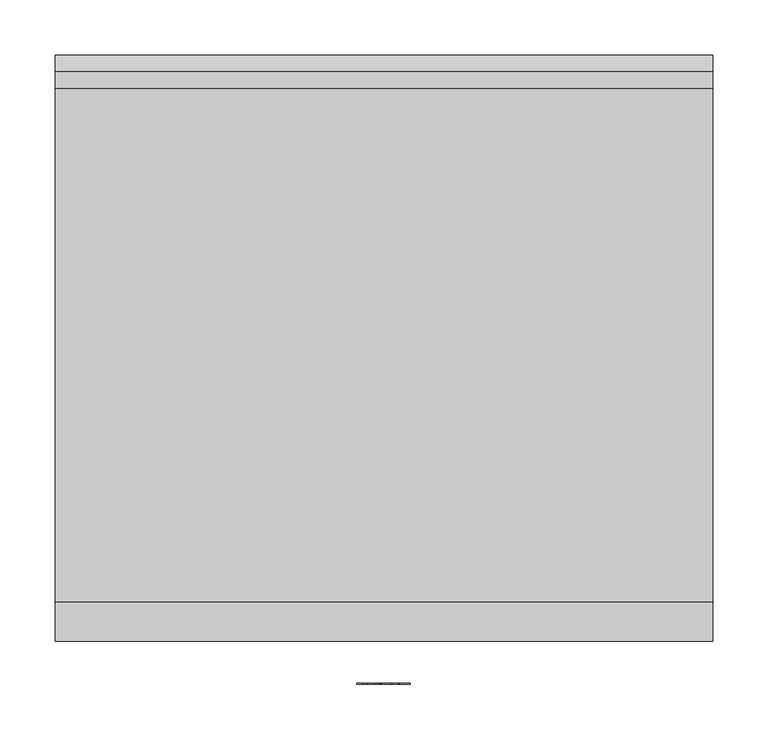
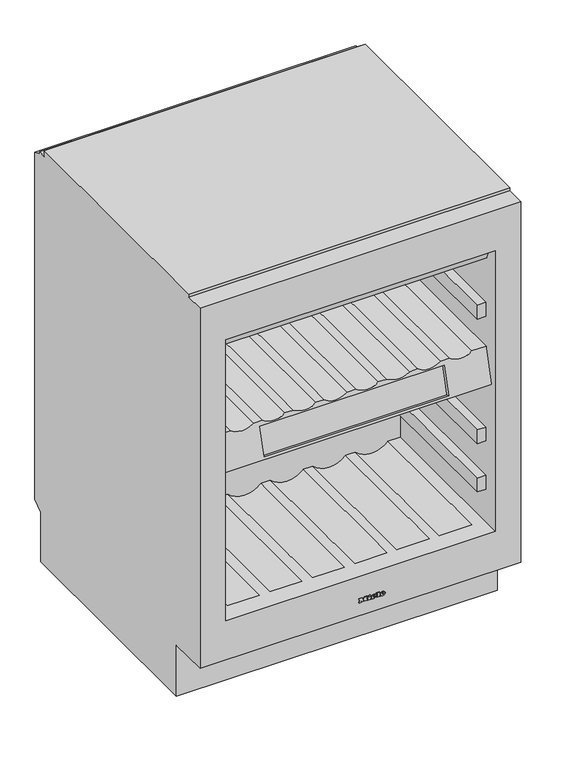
"""IFC4 building model written with IfcOpenShell, lengths in millimetres: proxy geometry, 09850180_AUS_KWT6321UG : 36632100_AUS_9850180_KWT6321UG."""

from ifc_helpers import new_model, si_unit, point, frame, frame_2d, origin, origin_with_axes, place, context, project, spatial, polyline, circle_curve, ellipse_curve, trimmed, segment, composite_curve, outline, extrude, source, transform, mapped, element, save
from ifc_brep_helpers import plane_surface, cylinder_surface, revolved_surface, extruded_surface, advanced_brep


def specialty_equipment_eea160db(model_context):
    return source(origin(), model_context, "Body", "SolidModel", [
        advanced_brep(
        [(298.5, 551.0, 2.5), (298.5, 551.0, 100.0), (298.5, 570.0, 114.0), (298.5, 570.0, 796.3), (298.5, 555.0, 802.0), (298.5, 555.0, 806.0), (298.5, 539.335479, 806.0), (298.5, 539.335479, 818.0), (298.5, 74.0, 818.0), (298.5, 74.0, 812.0), (298.5, 38.0, 812.0), (298.5, 38.0, 103.5), (298.5, 114.0, 103.5), (298.5, 114.0, 2.5), (-298.5, 551.0, 2.5), (-298.5, 114.0, 2.5), (-298.5, 114.0, 103.5), (-298.5, 38.0, 103.5), (-298.5, 38.0, 812.0), (-298.5, 74.0, 812.0), (-298.5, 74.0, 818.0), (-298.5, 539.335479, 818.0), (-298.5, 539.335479, 806.0), (-298.5, 555.0, 806.0), (-298.5, 555.0, 802.0), (-298.5, 570.0, 796.3), (-298.5, 570.0, 114.0), (-298.5, 551.0, 100.0), (251.0, 38.0, 733.0), (251.0, 38.0, 180.5), (-251.0, 38.0, 180.5), (-251.0, 38.0, 733.0), (251.0, 54.0, 733.0), (251.0, 65.0, 703.0), (251.0, 390.0, 703.0), (251.0, 390.0, 602.5), (251.0, 482.0, 602.5), (251.0, 482.0, 527.5), (251.0, 67.1557233, 527.5), (251.0, 49.8730004, 463.0), (251.0, 390.0, 463.0), (251.0, 390.0, 362.0), (251.0, 482.0, 362.0), (251.0, 482.0, 262.0), (251.0, 370.3, 262.0), (251.0, 344.0, 236.7), (251.0, 344.0, 180.5), (251.0, 345.0, 585.0), (251.0, 345.0, 612.2), (251.0, 69.0, 612.2), (251.0, 69.0, 585.0), (251.0, 345.0, 340.0), (251.0, 345.0, 367.2), (251.0, 69.0, 367.2), (251.0, 69.0, 340.0), (251.0, 345.0, 245.0), (251.0, 345.0, 272.2), (251.0, 69.0, 272.2), (251.0, 69.0, 245.0), (-251.0, 344.0, 180.5), (-251.0, 344.0, 236.7), (-251.0, 370.3, 262.0), (-251.0, 482.0, 262.0), (-251.0, 482.0, 362.0), (-251.0, 390.0, 362.0), (-251.0, 390.0, 463.0), (-251.0, 49.8730004, 463.0), (-251.0, 67.1557233, 527.5), (-251.0, 482.0, 527.5), (-251.0, 482.0, 602.5), (-251.0, 390.0, 602.5), (-251.0, 390.0, 703.0), (-251.0, 65.0, 703.0), (-251.0, 54.0, 733.0), (-251.0, 345.0, 612.2), (-251.0, 345.0, 585.0), (-251.0, 69.0, 585.0), (-251.0, 69.0, 612.2), (-251.0, 345.0, 367.2), (-251.0, 345.0, 340.0), (-251.0, 69.0, 340.0), (-251.0, 69.0, 367.2), (-251.0, 345.0, 272.2), (-251.0, 345.0, 245.0), (-251.0, 69.0, 245.0), (-251.0, 69.0, 272.2), (227.8108891, 344.0, 180.5), (227.8108891, 73.0, 180.5), (167.1891109, 73.0, 180.5), (167.1891109, 344.0, 180.5), (148.8108891, 344.0, 180.5), (148.8108891, 73.0, 180.5), (88.1891109, 73.0, 180.5), (88.1891109, 344.0, 180.5), (69.8108891, 344.0, 180.5), (69.8108891, 73.0, 180.5), (9.1891109, 73.0, 180.5), (9.1891109, 344.0, 180.5), (-9.1891109, 344.0, 180.5), (-9.1891109, 73.0, 180.5), (-69.8108891, 73.0, 180.5), (-69.8108891, 344.0, 180.5), (-88.1891109, 344.0, 180.5), (-88.1891109, 73.0, 180.5), (-148.8108891, 73.0, 180.5), (-148.8108891, 344.0, 180.5), (-167.1891109, 344.0, 180.5), (-167.1891109, 73.0, 180.5), (-227.8108891, 73.0, 180.5), (-227.8108891, 344.0, 180.5), (224.1024288, 67.1557233, 527.5), (181.8975712, 67.1557233, 527.5), (166.1024288, 67.1557233, 527.5), (123.8975712, 67.1557233, 527.5), (108.1024288, 67.1557233, 527.5), (65.8975712, 67.1557233, 527.5), (50.1024288, 67.1557233, 527.5), (7.8975712, 67.1557233, 527.5), (-7.8975712, 67.1557233, 527.5), (-50.1024288, 67.1557233, 527.5), (-65.8975712, 67.1557233, 527.5), (-108.1024288, 67.1557233, 527.5), (-123.8975712, 67.1557233, 527.5), (-166.1024288, 67.1557233, 527.5), (-181.8975712, 67.1557233, 527.5), (-224.1024288, 67.1557233, 527.5), (171.5, 64.8781552, 519.0), (171.5, 50.9795725, 467.1297831), (-171.5, 50.9795725, 467.1297831), (-171.5, 64.8781552, 519.0), (224.1024288, 482.0, 527.5), (-224.1024288, 482.0, 527.5), (181.8975712, 482.0, 527.5), (166.1024288, 482.0, 527.5), (123.8975712, 482.0, 527.5), (108.1024288, 482.0, 527.5), (65.8975712, 482.0, 527.5), (50.1024288, 482.0, 527.5), (7.8975712, 482.0, 527.5), (-7.8975712, 482.0, 527.5), (-50.1024288, 482.0, 527.5), (-65.8975712, 482.0, 527.5), (-108.1024288, 482.0, 527.5), (-123.8975712, 482.0, 527.5), (-166.1024288, 482.0, 527.5), (-181.8975712, 482.0, 527.5), (171.5, 70.6737101, 517.4470857), (171.5, 56.7751274, 465.5768689), (-171.5, 56.7751274, 465.5768689), (-171.5, 70.6737101, 517.4470857), (-235.0, 345.0, 612.2), (-235.0, 345.0, 585.0), (-235.0, 345.0, 367.2), (-235.0, 345.0, 340.0), (-235.0, 345.0, 272.2), (-235.0, 345.0, 245.0), (235.0, 345.0, 612.2), (235.0, 345.0, 585.0), (235.0, 345.0, 367.2), (235.0, 345.0, 340.0), (235.0, 345.0, 272.2), (235.0, 345.0, 245.0), (-235.0, 69.0, 612.2), (-235.0, 69.0, 585.0), (-235.0, 69.0, 367.2), (-235.0, 69.0, 340.0), (-235.0, 69.0, 272.2), (-235.0, 69.0, 245.0), (235.0, 69.0, 612.2), (235.0, 69.0, 585.0), (235.0, 69.0, 367.2), (235.0, 69.0, 340.0), (235.0, 69.0, 272.2), (235.0, 69.0, 245.0)],
        [
            (0, 1),
            (1, 2),
            (2, 3),
            (3, 4),
            (4, 5),
            (5, 6),
            (6, 7),
            (7, 8),
            (8, 9),
            (9, 10),
            (10, 11),
            (11, 12),
            (12, 13),
            (13, 0),
            (14, 15),
            (15, 16),
            (16, 17),
            (17, 18),
            (18, 19),
            (19, 20),
            (20, 21),
            (21, 22),
            (22, 23),
            (23, 24),
            (24, 25),
            (25, 26),
            (26, 27),
            (27, 14),
            (0, 14),
            (27, 1),
            (26, 2),
            (25, 3),
            (24, 4),
            (23, 5),
            (22, 6),
            (21, 7),
            (20, 8),
            (17, 11),
            (10, 18),
            (28, 29),
            (29, 30),
            (30, 31),
            (31, 28),
            (16, 12),
            (15, 13),
            (32, 33),
            (33, 34),
            (34, 35),
            (35, 36),
            (36, 37),
            (37, 38),
            (38, 39),
            (39, 40),
            (40, 41),
            (41, 42),
            (42, 43),
            (43, 44),
            (44, 45),
            (45, 46),
            (46, 29),
            (28, 32),
            (47, 48),
            (48, 49),
            (49, 50),
            (50, 47),
            (51, 52),
            (52, 53),
            (53, 54),
            (54, 51),
            (55, 56),
            (56, 57),
            (57, 58),
            (58, 55),
            (59, 60),
            (60, 61),
            (61, 62),
            (62, 63),
            (63, 64),
            (64, 65),
            (65, 66),
            (66, 67),
            (67, 68),
            (68, 69),
            (69, 70),
            (70, 71),
            (71, 72),
            (72, 73),
            (73, 31),
            (30, 59),
            (74, 75),
            (75, 76),
            (76, 77),
            (77, 74),
            (78, 79),
            (79, 80),
            (80, 81),
            (81, 78),
            (82, 83),
            (83, 84),
            (84, 85),
            (85, 82),
            (73, 32),
            (46, 86),
            (86, 87),
            (87, 88),
            (88, 89),
            (89, 90),
            (90, 91),
            (91, 92),
            (92, 93),
            (93, 94),
            (94, 95),
            (95, 96),
            (96, 97),
            (97, 98),
            (98, 99),
            (99, 100),
            (100, 101),
            (101, 102),
            (102, 103),
            (103, 104),
            (104, 105),
            (105, 106),
            (106, 107),
            (107, 108),
            (108, 109),
            (109, 59),
            (45, 60),
            (109, 106, circle_curve(frame((-197.5, 344.0, 211.0), z_axis=(0.0, -1.0, 0.0), x_axis=(1.0, 0.0, 0.0)), 43.0)),
            (105, 102, circle_curve(frame((-118.5, 344.0, 211.0), z_axis=(0.0, -1.0, 0.0), x_axis=(1.0, 0.0, 0.0)), 43.0)),
            (101, 98, circle_curve(frame((-39.5, 344.0, 211.0), z_axis=(0.0, -1.0, 0.0), x_axis=(1.0, 0.0, 0.0)), 43.0)),
            (97, 94, circle_curve(frame((39.5, 344.0, 211.0), z_axis=(0.0, -1.0, 0.0), x_axis=(1.0, 0.0, 0.0)), 43.0)),
            (93, 90, circle_curve(frame((118.5, 344.0, 211.0), z_axis=(0.0, -1.0, 0.0), x_axis=(1.0, 0.0, 0.0)), 43.0)),
            (89, 86, circle_curve(frame((197.5, 344.0, 211.0), z_axis=(0.0, -1.0, 0.0), x_axis=(1.0, 0.0, 0.0)), 43.0)),
            (44, 61),
            (43, 62),
            (42, 63),
            (41, 64),
            (40, 65),
            (39, 66),
            (38, 110),
            (110, 111, ellipse_curve(frame((203.0, 75.8640721, 560.0), z_axis=(0.0, 0.9659258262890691, -0.25881904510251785), x_axis=(0.0, -0.2588190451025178, -0.9659258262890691)), 40.116952, 38.75)),
            (111, 112),
            (112, 113, ellipse_curve(frame((145.0, 75.8640721, 560.0), z_axis=(0.0, 0.9659258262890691, -0.25881904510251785), x_axis=(0.0, -0.2588190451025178, -0.9659258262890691)), 40.116952, 38.75)),
            (113, 114),
            (114, 115, ellipse_curve(frame((87.0, 75.8640721, 560.0), z_axis=(0.0, 0.9659258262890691, -0.25881904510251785), x_axis=(0.0, -0.2588190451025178, -0.9659258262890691)), 40.116952, 38.75)),
            (115, 116),
            (116, 117, ellipse_curve(frame((29.0, 75.8640721, 560.0), z_axis=(0.0, 0.9659258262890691, -0.25881904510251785), x_axis=(0.0, -0.2588190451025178, -0.9659258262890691)), 40.116952, 38.75)),
            (117, 118),
            (118, 119, ellipse_curve(frame((-29.0, 75.8640721, 560.0), z_axis=(0.0, 0.9659258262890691, -0.25881904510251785), x_axis=(0.0, -0.2588190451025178, -0.9659258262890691)), 40.116952, 38.75)),
            (119, 120),
            (120, 121, ellipse_curve(frame((-87.0, 75.8640721, 560.0), z_axis=(0.0, 0.9659258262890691, -0.25881904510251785), x_axis=(0.0, -0.2588190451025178, -0.9659258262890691)), 40.116952, 38.75)),
            (121, 122),
            (122, 123, ellipse_curve(frame((-145.0, 75.8640721, 560.0), z_axis=(0.0, 0.9659258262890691, -0.25881904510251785), x_axis=(0.0, -0.2588190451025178, -0.9659258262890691)), 40.116952, 38.75)),
            (123, 124),
            (124, 125, ellipse_curve(frame((-203.0, 75.8640721, 560.0), z_axis=(0.0, 0.9659258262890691, -0.25881904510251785), x_axis=(0.0, -0.2588190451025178, -0.9659258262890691)), 40.116952, 38.75)),
            (125, 67),
            (126, 127),
            (127, 128),
            (128, 129),
            (129, 126),
            (37, 130),
            (130, 110),
            (125, 131),
            (131, 68),
            (111, 132),
            (132, 133),
            (133, 112),
            (113, 134),
            (134, 135),
            (135, 114),
            (115, 136),
            (136, 137),
            (137, 116),
            (117, 138),
            (138, 139),
            (139, 118),
            (119, 140),
            (140, 141),
            (141, 120),
            (121, 142),
            (142, 143),
            (143, 122),
            (123, 144),
            (144, 145),
            (145, 124),
            (36, 69),
            (131, 145, circle_curve(frame((-203.0, 482.0, 560.0), z_axis=(0.0, -1.0, 0.0), x_axis=(1.0, 0.0, 0.0)), 38.75)),
            (144, 143, circle_curve(frame((-145.0, 482.0, 560.0), z_axis=(0.0, -1.0, 0.0), x_axis=(1.0, 0.0, 0.0)), 38.75)),
            (142, 141, circle_curve(frame((-87.0, 482.0, 560.0), z_axis=(0.0, -1.0, 0.0), x_axis=(1.0, 0.0, 0.0)), 38.75)),
            (140, 139, circle_curve(frame((-29.0, 482.0, 560.0), z_axis=(0.0, -1.0, 0.0), x_axis=(1.0, 0.0, 0.0)), 38.75)),
            (138, 137, circle_curve(frame((29.0, 482.0, 560.0), z_axis=(0.0, -1.0, 0.0), x_axis=(1.0, 0.0, 0.0)), 38.75)),
            (136, 135, circle_curve(frame((87.0, 482.0, 560.0), z_axis=(0.0, -1.0, 0.0), x_axis=(1.0, 0.0, 0.0)), 38.75)),
            (134, 133, circle_curve(frame((145.0, 482.0, 560.0), z_axis=(0.0, -1.0, 0.0), x_axis=(1.0, 0.0, 0.0)), 38.75)),
            (132, 130, circle_curve(frame((203.0, 482.0, 560.0), z_axis=(0.0, -1.0, 0.0), x_axis=(1.0, 0.0, 0.0)), 38.75)),
            (35, 70),
            (34, 71),
            (33, 72),
            (126, 146),
            (146, 147),
            (147, 127),
            (128, 148),
            (148, 149),
            (149, 129),
            (147, 148),
            (146, 149),
            (9, 19),
            (150, 151),
            (151, 75),
            (74, 150),
            (152, 153),
            (153, 79),
            (78, 152),
            (154, 155),
            (155, 83),
            (82, 154),
            (156, 48),
            (47, 157),
            (157, 156),
            (158, 52),
            (51, 159),
            (159, 158),
            (160, 56),
            (55, 161),
            (161, 160),
            (162, 77),
            (76, 163),
            (163, 162),
            (164, 81),
            (80, 165),
            (165, 164),
            (166, 85),
            (84, 167),
            (167, 166),
            (168, 169),
            (169, 50),
            (49, 168),
            (170, 171),
            (171, 54),
            (53, 170),
            (172, 173),
            (173, 58),
            (57, 172),
            (162, 150),
            (151, 163),
            (164, 152),
            (153, 165),
            (166, 154),
            (155, 167),
            (157, 169),
            (168, 156),
            (159, 171),
            (170, 158),
            (161, 173),
            (172, 160),
            (99, 100, circle_curve(frame((-39.5, 73.0, 211.0), z_axis=(0.0, 1.0, 0.0), x_axis=(1.0, 0.0, 0.0)), 43.0)),
            (103, 104, circle_curve(frame((-118.5, 73.0, 211.0), z_axis=(0.0, 1.0, 0.0), x_axis=(1.0, 0.0, 0.0)), 43.0)),
            (107, 108, circle_curve(frame((-197.5, 73.0, 211.0), z_axis=(0.0, 1.0, 0.0), x_axis=(1.0, 0.0, 0.0)), 43.0)),
            (87, 88, circle_curve(frame((197.5, 73.0, 211.0), z_axis=(0.0, 1.0, 0.0), x_axis=(1.0, 0.0, 0.0)), 43.0)),
            (91, 92, circle_curve(frame((118.5, 73.0, 211.0), z_axis=(0.0, 1.0, 0.0), x_axis=(1.0, 0.0, 0.0)), 43.0)),
            (95, 96, circle_curve(frame((39.5, 73.0, 211.0), z_axis=(0.0, 1.0, 0.0), x_axis=(1.0, 0.0, 0.0)), 43.0)),
        ],
        [
            plane_surface(frame((298.5, 551.0, 2.5), z_axis=(1.0, 0.0, 0.0), x_axis=(0.0, 0.0, 1.0))),
            plane_surface(frame((-298.5, 551.0, 2.5), z_axis=(-1.0, 0.0, 0.0), x_axis=(0.0, 0.0, -1.0))),
            plane_surface(frame((298.5, 551.0, 2.5), z_axis=(0.0, 1.0, 0.0), x_axis=(-1.0, 0.0, 0.0))),
            plane_surface(frame((298.5, 551.0, 100.0), z_axis=(0.0, 0.5931990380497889, -0.8050558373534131), x_axis=(-1.0, 0.0, 0.0))),
            plane_surface(frame((298.5, 570.0, 114.0), z_axis=(0.0, 1.0, 0.0), x_axis=(-1.0, 0.0, 0.0))),
            plane_surface(frame((298.5, 570.0, 796.3), z_axis=(0.0, 0.35521776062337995, 0.9347835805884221), x_axis=(-1.0, 0.0, 0.0))),
            plane_surface(frame((298.5, 555.0, 802.0), z_axis=(0.0, 1.0, 0.0), x_axis=(-1.0, 0.0, 0.0))),
            plane_surface(frame((298.5, 555.0, 806.0), z_axis=(0.0, 0.0, 1.0), x_axis=(-1.0, 0.0, 0.0))),
            plane_surface(frame((298.5, 539.335479, 806.0), z_axis=(0.0, 1.0, 0.0), x_axis=(-1.0, 0.0, 0.0))),
            plane_surface(frame((298.5, 539.335479, 818.0), z_axis=(0.0, 0.0, 1.0), x_axis=(-1.0, 0.0, 0.0))),
            plane_surface(frame((298.5, 38.0, 818.0), z_axis=(0.0, -1.0, 0.0), x_axis=(-1.0, 0.0, 0.0))),
            plane_surface(frame((298.5, 38.0, 103.5), z_axis=(0.0, 0.0, -1.0), x_axis=(-1.0, 0.0, 0.0))),
            plane_surface(frame((298.5, 114.0, 103.5), z_axis=(0.0, -1.0, 0.0), x_axis=(-1.0, 0.0, 0.0))),
            plane_surface(frame((298.5, 114.0, 2.5), z_axis=(0.0, 0.0, -1.0), x_axis=(-1.0, 0.0, 0.0))),
            plane_surface(frame((251.0, 0.0, 733.0), z_axis=(-1.0, 0.0, 0.0), x_axis=(0.0, -1.0, 0.0))),
            plane_surface(frame((-251.0, 0.0, 733.0), z_axis=(1.0, 0.0, 0.0), x_axis=(0.0, 1.0, 0.0))),
            plane_surface(frame((251.0, 54.0, 733.0), z_axis=(0.0, 0.0, -1.0), x_axis=(-1.0, 0.0, 0.0))),
            plane_surface(frame((251.0, 0.0, 180.5), z_axis=(0.0, 0.0, 1.0), x_axis=(-1.0, 0.0, 0.0))),
            plane_surface(frame((251.0, 344.0, 180.5), z_axis=(0.0, -1.0, 0.0), x_axis=(-1.0, 0.0, 0.0))),
            plane_surface(frame((251.0, 344.0, 236.7), z_axis=(0.0, -0.6932729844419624, 0.7206750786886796), x_axis=(-1.0, 0.0, 0.0))),
            plane_surface(frame((251.0, 370.3, 262.0), z_axis=(0.0, 0.0, 1.0), x_axis=(-1.0, 0.0, 0.0))),
            plane_surface(frame((251.0, 482.0, 262.0), z_axis=(0.0, -1.0, 0.0), x_axis=(-1.0, 0.0, 0.0))),
            plane_surface(frame((251.0, 482.0, 362.0), z_axis=(0.0, 0.0, -1.0), x_axis=(-1.0, 0.0, 0.0))),
            plane_surface(frame((251.0, 390.0, 362.0), z_axis=(0.0, -1.0, 0.0), x_axis=(-1.0, 0.0, 0.0))),
            plane_surface(frame((251.0, 390.0, 463.0), z_axis=(0.0, 0.0, -1.0), x_axis=(-1.0, 0.0, 0.0))),
            plane_surface(frame((251.0, 49.8730004, 463.0), z_axis=(0.0, -0.9659258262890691, 0.25881904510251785), x_axis=(-1.0, 0.0, 0.0))),
            plane_surface(frame((251.0, 67.1557233, 527.5), z_axis=(0.0, 0.0, 1.0), x_axis=(-1.0, 0.0, 0.0))),
            plane_surface(frame((251.0, 482.0, 527.5), z_axis=(0.0, -1.0, 0.0), x_axis=(-1.0, 0.0, 0.0))),
            plane_surface(frame((251.0, 482.0, 602.5), z_axis=(0.0, 0.0, -1.0), x_axis=(-1.0, 0.0, 0.0))),
            plane_surface(frame((251.0, 390.0, 602.5), z_axis=(0.0, -1.0, 0.0), x_axis=(-1.0, 0.0, 0.0))),
            plane_surface(frame((251.0, 390.0, 703.0), z_axis=(0.0, 0.0, -1.0), x_axis=(-1.0, 0.0, 0.0))),
            plane_surface(frame((251.0, 65.0, 703.0), z_axis=(0.0, -0.9388763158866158, -0.34425464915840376), x_axis=(-1.0, 0.0, 0.0))),
            plane_surface(frame((171.5, 50.9795725, 467.1297831), z_axis=(-1.0, 0.0, 0.0), x_axis=(0.0, -0.25881904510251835, -0.965925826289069))),
            plane_surface(frame((-171.5, 50.9795725, 467.1297831), z_axis=(1.0, 0.0, 0.0), x_axis=(0.0, 0.25881904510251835, 0.965925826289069))),
            plane_surface(frame((171.5, 50.9795725, 467.1297831), z_axis=(0.0, 0.2588190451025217, 0.9659258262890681), x_axis=(-1.0, 0.0, 0.0))),
            plane_surface(frame((171.5, 56.7751274, 465.5768689), z_axis=(0.0, -0.9659258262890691, 0.2588190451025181), x_axis=(-1.0, 0.0, 0.0))),
            plane_surface(frame((171.5, 70.6737101, 517.4470857), z_axis=(0.0, -0.2588190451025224, -0.965925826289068), x_axis=(-1.0, 0.0, 0.0))),
            plane_surface(frame((298.5, 0.0, 812.0), z_axis=(0.0, 0.0, 1.0), x_axis=(-1.0, 0.0, 0.0))),
            plane_surface(frame((298.5, 74.0, 812.0), z_axis=(0.0, -1.0, 0.0), x_axis=(-1.0, 0.0, 0.0))),
            plane_surface(frame((-251.0, 345.0, 612.2), z_axis=(0.0, 1.0, 0.0), x_axis=(1.0, 0.0, 0.0))),
            plane_surface(frame((-251.0, 69.0, 612.2), z_axis=(0.0, -1.0, 0.0), x_axis=(-1.0, 0.0, 0.0))),
            plane_surface(frame((-235.0, 69.0, 612.2), z_axis=(0.0, 0.0, 1.0), x_axis=(0.0, 1.0, 0.0))),
            plane_surface(frame((-251.0, 69.0, 585.0), z_axis=(0.0, 0.0, -1.0), x_axis=(0.0, 1.0, 0.0))),
            plane_surface(frame((-235.0, 69.0, 585.0), z_axis=(1.0, 0.0, 0.0), x_axis=(0.0, 1.0, 0.0))),
            plane_surface(frame((-235.0, 69.0, 367.2), z_axis=(0.0, 0.0, 1.0), x_axis=(0.0, 1.0, 0.0))),
            plane_surface(frame((-251.0, 69.0, 340.0), z_axis=(0.0, 0.0, -1.0), x_axis=(0.0, 1.0, 0.0))),
            plane_surface(frame((-235.0, 69.0, 340.0), z_axis=(1.0, 0.0, 0.0), x_axis=(0.0, 1.0, 0.0))),
            plane_surface(frame((-235.0, 69.0, 272.2), z_axis=(0.0, 0.0, 1.0), x_axis=(0.0, 1.0, 0.0))),
            plane_surface(frame((-251.0, 69.0, 245.0), z_axis=(0.0, 0.0, -1.0), x_axis=(0.0, 1.0, 0.0))),
            plane_surface(frame((-235.0, 69.0, 245.0), z_axis=(1.0, 0.0, 0.0), x_axis=(0.0, 1.0, 0.0))),
            plane_surface(frame((235.0, 69.0, 612.2), z_axis=(-1.0, 0.0, 0.0), x_axis=(0.0, 1.0, 0.0))),
            plane_surface(frame((235.0, 69.0, 585.0), z_axis=(0.0, 0.0, -1.0), x_axis=(0.0, 1.0, 0.0))),
            plane_surface(frame((251.0, 69.0, 612.2), z_axis=(0.0, 0.0, 1.0), x_axis=(0.0, 1.0, 0.0))),
            plane_surface(frame((235.0, 69.0, 367.2), z_axis=(-1.0, 0.0, 0.0), x_axis=(0.0, 1.0, 0.0))),
            plane_surface(frame((235.0, 69.0, 340.0), z_axis=(0.0, 0.0, -1.0), x_axis=(0.0, 1.0, 0.0))),
            plane_surface(frame((251.0, 69.0, 367.2), z_axis=(0.0, 0.0, 1.0), x_axis=(0.0, 1.0, 0.0))),
            plane_surface(frame((235.0, 69.0, 272.2), z_axis=(-1.0, 0.0, 0.0), x_axis=(0.0, 1.0, 0.0))),
            plane_surface(frame((235.0, 69.0, 245.0), z_axis=(0.0, 0.0, -1.0), x_axis=(0.0, 1.0, 0.0))),
            plane_surface(frame((251.0, 69.0, 272.2), z_axis=(0.0, 0.0, 1.0), x_axis=(0.0, 1.0, 0.0))),
            revolved_surface(polyline([(67.75, 65.48104089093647, 560.0), (67.75, 482.0, 560.0)]), (29.0, 482.0, 560.0), (0.0, -1.0, 0.0)),
            revolved_surface(polyline([(125.75, 65.48104089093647, 560.0), (125.75, 482.0, 560.0)]), (87.0, 482.0, 560.0), (0.0, -1.0, 0.0)),
            revolved_surface(polyline([(183.75, 65.48104089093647, 560.0), (183.75, 482.0, 560.0)]), (145.0, 482.0, 560.0), (0.0, -1.0, 0.0)),
            revolved_surface(polyline([(241.75, 65.48104089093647, 560.0), (241.75, 482.0, 560.0)]), (203.0, 482.0, 560.0), (0.0, -1.0, 0.0)),
            revolved_surface(polyline([(-164.25, 65.48104089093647, 560.0), (-164.25, 482.0, 560.0)]), (-203.0, 482.0, 560.0), (0.0, -1.0, 0.0)),
            revolved_surface(polyline([(-106.25, 65.48104089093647, 560.0), (-106.25, 482.0, 560.0)]), (-145.0, 482.0, 560.0), (0.0, -1.0, 0.0)),
            revolved_surface(polyline([(-48.25, 65.48104089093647, 560.0), (-48.25, 482.0, 560.0)]), (-87.0, 482.0, 560.0), (0.0, -1.0, 0.0)),
            revolved_surface(polyline([(9.75, 65.48104089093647, 560.0), (9.75, 482.0, 560.0)]), (-29.0, 482.0, 560.0), (0.0, -1.0, 0.0)),
            plane_surface(frame((82.5, 73.0, 211.0), z_axis=(0.0, 1.0, 0.0), x_axis=(0.0, 0.0, 1.0))),
            revolved_surface(polyline([(82.5, 73.0, 211.0), (82.5, 344.0, 211.0)]), (39.5, 344.0, 211.0), (0.0, -1.0, 0.0)),
            revolved_surface(polyline([(161.5, 73.0, 211.0), (161.5, 344.0, 211.0)]), (118.5, 344.0, 211.0), (0.0, -1.0, 0.0)),
            revolved_surface(polyline([(240.5, 73.0, 211.0), (240.5, 344.0, 211.0)]), (197.5, 344.0, 211.0), (0.0, -1.0, 0.0)),
            revolved_surface(polyline([(-154.5, 73.0, 211.0), (-154.5, 344.0, 211.0)]), (-197.5, 344.0, 211.0), (0.0, -1.0, 0.0)),
            revolved_surface(polyline([(-75.5, 73.0, 211.0), (-75.5, 344.0, 211.0)]), (-118.5, 344.0, 211.0), (0.0, -1.0, 0.0)),
            revolved_surface(polyline([(3.5, 73.0, 211.0), (3.5, 344.0, 211.0)]), (-39.5, 344.0, 211.0), (0.0, -1.0, 0.0)),
        ],
        [
            (0, [[1, 2, 3, 4, 5, 6, 7, 8, 9, 10, 11, 12, 13, 14]]),
            (1, [[15, 16, 17, 18, 19, 20, 21, 22, 23, 24, 25, 26, 27, 28]]),
            (2, [[-1, 29, -28, 30]]),
            (3, [[-2, -30, -27, 31]]),
            (4, [[-3, -31, -26, 32]]),
            (5, [[-4, -32, -25, 33]]),
            (6, [[-5, -33, -24, 34]]),
            (7, [[-6, -34, -23, 35]]),
            (8, [[-7, -35, -22, 36]]),
            (9, [[-36, -21, 37, -8]]),
            (10, [[38, -11, 39, -18], [40, 41, 42, 43]]),
            (11, [[-12, -38, -17, 44]]),
            (12, [[-13, -44, -16, 45]]),
            (13, [[-14, -45, -15, -29]]),
            (14, [[46, 47, 48, 49, 50, 51, 52, 53, 54, 55, 56, 57, 58, 59, 60, -40, 61], [62, 63, 64, 65], [66, 67, 68, 69], [70, 71, 72, 73]]),
            (15, [[74, 75, 76, 77, 78, 79, 80, 81, 82, 83, 84, 85, 86, 87, 88, -42, 89], [90, 91, 92, 93], [94, 95, 96, 97], [98, 99, 100, 101]]),
            (16, [[102, -61, -43, -88]]),
            (17, [[-60, 103, 104, 105, 106, 107, 108, 109, 110, 111, 112, 113, 114, 115, 116, 117, 118, 119, 120, 121, 122, 123, 124, 125, 126, 127, -89, -41]]),
            (18, [[-59, 128, -74, -127, 129, -123, 130, -119, 131, -115, 132, -111, 133, -107, 134, -103]]),
            (19, [[-58, 135, -75, -128]]),
            (20, [[-57, 136, -76, -135]]),
            (21, [[-56, 137, -77, -136]]),
            (22, [[-55, 138, -78, -137]]),
            (23, [[-54, 139, -79, -138]]),
            (24, [[-53, 140, -80, -139]]),
            (25, [[-52, 141, 142, 143, 144, 145, 146, 147, 148, 149, 150, 151, 152, 153, 154, 155, 156, 157, -81, -140], [158, 159, 160, 161]]),
            (26, [[-51, 162, 163, -141]]),
            (26, [[-82, -157, 164, 165]]),
            (26, [[-143, 166, 167, 168]]),
            (26, [[-145, 169, 170, 171]]),
            (26, [[-147, 172, 173, 174]]),
            (26, [[-149, 175, 176, 177]]),
            (26, [[-151, 178, 179, 180]]),
            (26, [[-153, 181, 182, 183]]),
            (26, [[-155, 184, 185, 186]]),
            (27, [[-50, 187, -83, -165, 188, -185, 189, -182, 190, -179, 191, -176, 192, -173, 193, -170, 194, -167, 195, -162]]),
            (28, [[-49, 196, -84, -187]]),
            (29, [[-48, 197, -85, -196]]),
            (30, [[-47, 198, -86, -197]]),
            (31, [[-46, -102, -87, -198]]),
            (32, [[199, 200, 201, -158]]),
            (33, [[202, 203, 204, -160]]),
            (34, [[-201, 205, -202, -159]]),
            (35, [[-200, 206, -203, -205]]),
            (36, [[-199, -161, -204, -206]]),
            (37, [[207, -19, -39, -10]]),
            (38, [[-207, -9, -37, -20]]),
            (39, [[208, 209, -90, 210]]),
            (39, [[211, 212, -94, 213]]),
            (39, [[214, 215, -98, 216]]),
            (39, [[217, -62, 218, 219]]),
            (39, [[220, -66, 221, 222]]),
            (39, [[223, -70, 224, 225]]),
            (40, [[226, -92, 227, 228]]),
            (40, [[229, -96, 230, 231]]),
            (40, [[232, -100, 233, 234]]),
            (40, [[235, 236, -64, 237]]),
            (40, [[238, 239, -68, 240]]),
            (40, [[241, 242, -72, 243]]),
            (41, [[-210, -93, -226, 244]]),
            (42, [[-209, 245, -227, -91]]),
            (43, [[-208, -244, -228, -245]]),
            (44, [[-213, -97, -229, 246]]),
            (45, [[-212, 247, -230, -95]]),
            (46, [[-211, -246, -231, -247]]),
            (47, [[-216, -101, -232, 248]]),
            (48, [[-215, 249, -233, -99]]),
            (49, [[-214, -248, -234, -249]]),
            (50, [[-219, 250, -235, 251]]),
            (51, [[-218, -65, -236, -250]]),
            (52, [[-217, -251, -237, -63]]),
            (53, [[-222, 252, -238, 253]]),
            (54, [[-221, -69, -239, -252]]),
            (55, [[-220, -253, -240, -67]]),
            (56, [[-225, 254, -241, 255]]),
            (57, [[-224, -73, -242, -254]]),
            (58, [[-223, -255, -243, -71]]),
            (59, [[-192, -175, -148, -174]]),
            (60, [[-193, -172, -146, -171]]),
            (61, [[-194, -169, -144, -168]]),
            (62, [[-195, -166, -142, -163]]),
            (63, [[-188, -164, -156, -186]]),
            (64, [[-189, -184, -154, -183]]),
            (65, [[-190, -181, -152, -180]]),
            (66, [[-191, -178, -150, -177]]),
            (67, [[256, -117]]),
            (67, [[257, -121]]),
            (67, [[258, -125]]),
            (67, [[259, -105]]),
            (67, [[260, -109]]),
            (67, [[261, -113]]),
            (68, [[-132, -114, -261, -112]]),
            (69, [[-133, -110, -260, -108]]),
            (70, [[-134, -106, -259, -104]]),
            (71, [[-129, -126, -258, -124]]),
            (72, [[-130, -122, -257, -120]]),
            (73, [[-131, -118, -256, -116]]),
        ],
    ),
        extrude(outline(composite_curve([segment(trimmed(circle_curve(frame_2d((-278.5, 497.0)), 16.0), [point((-294.5, 497.0))], [point((-262.5, 497.0))], False, "CARTESIAN"), True, "CONTINUOUS"), segment(trimmed(circle_curve(frame_2d((-278.5, 497.0)), 16.0), [point((-262.5, 497.0))], [point((-294.5, 497.0))], False, "CARTESIAN"), True, "CONTINUOUS")], self_intersect=False)), origin_with_axes(), (0.0, 0.0, 1.0), 2.5),
        extrude(outline(composite_curve([segment(trimmed(circle_curve(frame_2d((278.5, 497.0)), 16.0), [point((262.5, 497.0))], [point((294.5, 497.0))], False, "CARTESIAN"), True, "CONTINUOUS"), segment(trimmed(circle_curve(frame_2d((278.5, 497.0)), 16.0), [point((294.5, 497.0))], [point((262.5, 497.0))], False, "CARTESIAN"), True, "CONTINUOUS")], self_intersect=False)), origin_with_axes(), (0.0, 0.0, 1.0), 2.5),
        extrude(outline(composite_curve([segment(trimmed(circle_curve(frame_2d((-278.5, 136.0)), 16.0), [point((-294.5, 136.0))], [point((-262.5, 136.0))], False, "CARTESIAN"), True, "CONTINUOUS"), segment(trimmed(circle_curve(frame_2d((-278.5, 136.0)), 16.0), [point((-262.5, 136.0))], [point((-294.5, 136.0))], False, "CARTESIAN"), True, "CONTINUOUS")], self_intersect=False)), origin_with_axes(), (0.0, 0.0, 1.0), 2.5),
        extrude(outline(composite_curve([segment(trimmed(circle_curve(frame_2d((278.5, 136.0)), 16.0), [point((262.5, 136.0))], [point((294.5, 136.0))], False, "CARTESIAN"), True, "CONTINUOUS"), segment(trimmed(circle_curve(frame_2d((278.5, 136.0)), 16.0), [point((294.5, 136.0))], [point((262.5, 136.0))], False, "CARTESIAN"), True, "CONTINUOUS")], self_intersect=False)), origin_with_axes(), (0.0, 0.0, 1.0), 2.5),
        advanced_brep(
        [(18.456, -1.0, 161.896), (18.456, -1.0, 162.704), (23.808, -1.0, 162.704), (14.496, -1.0, 162.704), (16.696, -1.0, 160.0), (23.672, -1.0, 161.896), (21.256, -1.0, 161.896), (19.352, -1.0, 161.0), (18.456, -1.0, 163.728), (18.456, -1.0, 164.6), (19.824, -1.0, 164.6), (19.824, -1.0, 163.728), (18.456, 0.0, 161.896), (19.352, 0.0, 161.0), (21.256, 0.0, 161.896), (23.672, 0.0, 161.896), (16.696, 0.0, 160.0), (14.496, 0.0, 162.704), (23.808, 0.0, 162.704), (18.456, 0.0, 162.704), (18.456, 0.0, 163.728), (19.824, 0.0, 163.728), (19.824, 0.0, 164.6), (18.456, 0.0, 164.6)],
        [
            (0, 1),
            (1, 2),
            (2, 3, ellipse_curve(frame((19.152, -1.0, 162.704), z_axis=(0.0, -1.0, 0.0), x_axis=(-1.0, 0.0, 0.0)), 4.656, 3.848)),
            (3, 4, circle_curve(frame((17.5920436, -1.0, 162.976), z_axis=(0.0, -1.0, 0.0), x_axis=(0.0, 0.0, -1.0)), 3.1079688)),
            (4, 5, circle_curve(frame((19.0587936, -1.0, 165.088), z_axis=(0.0, -1.0, 0.0), x_axis=(0.0, 0.0, -1.0)), 5.6098607)),
            (5, 6),
            (6, 7, circle_curve(frame((19.7430588, -1.0, 162.64), z_axis=(0.0, 1.0, 0.0), x_axis=(0.0, 0.0, -1.0)), 1.6859795)),
            (7, 0, circle_curve(frame((19.352, -1.0, 161.896), z_axis=(0.0, 1.0, 0.0), x_axis=(0.0, 0.0, -1.0)), 0.896)),
            (8, 9),
            (9, 10, circle_curve(frame((19.14, -1.0, 164.6), z_axis=(0.0, 1.0, 0.0), x_axis=(0.0, 0.0, -1.0)), 0.684)),
            (10, 11),
            (11, 8),
            (12, 13, circle_curve(frame((19.352, 0.0, 161.896), z_axis=(0.0, -1.0, 0.0), x_axis=(0.0, 0.0, -1.0)), 0.896)),
            (13, 14, circle_curve(frame((19.7430588, 0.0, 162.64), z_axis=(0.0, -1.0, 0.0), x_axis=(0.0, 0.0, -1.0)), 1.6859795)),
            (14, 15),
            (15, 16, circle_curve(frame((19.0587936, 0.0, 165.088), z_axis=(0.0, 1.0, 0.0), x_axis=(0.0, 0.0, -1.0)), 5.6098607)),
            (16, 17, circle_curve(frame((17.5920436, 0.0, 162.976), z_axis=(0.0, 1.0, 0.0), x_axis=(0.0, 0.0, -1.0)), 3.1079688)),
            (17, 18, ellipse_curve(frame((19.152, 0.0, 162.704), z_axis=(0.0, 1.0, 0.0), x_axis=(-1.0, 0.0, 0.0)), 4.656, 3.848)),
            (18, 19),
            (19, 12),
            (20, 21),
            (21, 22),
            (22, 23, circle_curve(frame((19.14, 0.0, 164.6), z_axis=(0.0, -1.0, 0.0), x_axis=(0.0, 0.0, -1.0)), 0.684)),
            (23, 20),
            (0, 12),
            (19, 1),
            (18, 2),
            (5, 15),
            (14, 6),
            (17, 3),
            (13, 7),
            (16, 4),
            (8, 20),
            (23, 9),
            (22, 10),
            (21, 11),
        ],
        [
            plane_surface(frame((18.456, -1.0, 162.704), z_axis=(0.0, -1.0, 0.0), x_axis=(0.0, 0.0, 1.0))),
            plane_surface(frame((18.456, 0.0, 162.704), z_axis=(0.0, 1.0, 0.0), x_axis=(0.0, 0.0, -1.0))),
            plane_surface(frame((18.456, -1.0, 161.896), z_axis=(1.0, 0.0, 0.0), x_axis=(0.0, 1.0, 0.0))),
            plane_surface(frame((18.456, -1.0, 162.704), z_axis=(0.0, 0.0, -1.0), x_axis=(0.0, 1.0, 0.0))),
            plane_surface(frame((23.672, -1.0, 161.896), z_axis=(0.0, 0.0, 1.0), x_axis=(0.0, 1.0, 0.0))),
            extruded_surface(trimmed(ellipse_curve(frame((19.152, 1.0, 162.704), z_axis=(0.0, -1.0, 0.0), x_axis=(-1.0, 0.0, 0.0)), 4.656, 3.848), [point((23.808, 1.0, 162.704))], [point((14.496, 1.0, 162.704))], True, "CARTESIAN"), (0.0, -1.0, 0.0), 1.0),
            revolved_surface(polyline([(19.7430588, 0.0, 160.95402049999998), (19.7430588, -1.0, 160.95402049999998)]), (19.7430588, 0.0, 162.64), (0.0, 1.0, 0.0)),
            revolved_surface(polyline([(19.352, 0.0, 161.0), (19.352, -1.0, 161.0)]), (19.352, 0.0, 161.896), (0.0, 1.0, 0.0)),
            cylinder_surface(frame((17.5920436, 0.0, 162.976), z_axis=(0.0, -1.0, 0.0), x_axis=(0.0, 0.0, -1.0)), 3.1079688),
            cylinder_surface(frame((19.0587936, 0.0, 165.088), z_axis=(0.0, -1.0, 0.0), x_axis=(0.0, 0.0, -1.0)), 5.6098607),
            plane_surface(frame((18.456, -1.0, 163.728), z_axis=(1.0, 0.0, 0.0), x_axis=(0.0, 1.0, 0.0))),
            revolved_surface(polyline([(19.14, 0.0, 163.916), (19.14, -1.0, 163.916)]), (19.14, 0.0, 164.6), (0.0, 1.0, 0.0)),
            plane_surface(frame((19.824, -1.0, 164.6), z_axis=(-1.0, 0.0, 0.0), x_axis=(0.0, 1.0, 0.0))),
            plane_surface(frame((19.824, -1.0, 163.728), z_axis=(0.0, 0.0, 1.0), x_axis=(0.0, 1.0, 0.0))),
        ],
        [
            (0, [[1, 2, 3, 4, 5, 6, 7, 8], [9, 10, 11, 12]]),
            (1, [[13, 14, 15, 16, 17, 18, 19, 20], [21, 22, 23, 24]]),
            (2, [[-1, 25, -20, 26]]),
            (3, [[-2, -26, -19, 27]]),
            (4, [[-6, 28, -15, 29]]),
            (5, [[-3, -27, -18, 30]]),
            (6, [[-7, -29, -14, 31]]),
            (7, [[-8, -31, -13, -25]]),
            (8, [[-4, -30, -17, 32]]),
            (9, [[-5, -32, -16, -28]]),
            (10, [[-9, 33, -24, 34]]),
            (11, [[-10, -34, -23, 35]]),
            (12, [[-11, -35, -22, 36]]),
            (13, [[-12, -36, -21, -33]]),
        ],
    ),
        advanced_brep(
        [(1.76, -1.0, 161.896), (1.76, -1.0, 162.704), (7.112, -1.0, 162.704), (-2.2, -1.0, 162.704), (0.0, -1.0, 160.0), (6.976, -1.0, 161.896), (4.56, -1.0, 161.896), (2.656, -1.0, 161.0), (1.76, -1.0, 163.728), (1.76, -1.0, 164.6), (3.128, -1.0, 164.6), (3.128, -1.0, 163.728), (1.76, 0.0, 161.896), (2.656, 0.0, 161.0), (4.56, 0.0, 161.896), (6.976, 0.0, 161.896), (0.0, 0.0, 160.0), (-2.2, 0.0, 162.704), (7.112, 0.0, 162.704), (1.76, 0.0, 162.704), (1.76, 0.0, 163.728), (3.128, 0.0, 163.728), (3.128, 0.0, 164.6), (1.76, 0.0, 164.6)],
        [
            (0, 1),
            (1, 2),
            (2, 3, ellipse_curve(frame((2.456, -1.0, 162.704), z_axis=(0.0, -1.0, 0.0), x_axis=(-1.0, 0.0, 0.0)), 4.656, 3.848)),
            (3, 4, circle_curve(frame((0.8960436, -1.0, 162.976), z_axis=(0.0, -1.0, 0.0), x_axis=(0.0, 0.0, -1.0)), 3.1079688)),
            (4, 5, circle_curve(frame((2.3627936, -1.0, 165.088), z_axis=(0.0, -1.0, 0.0), x_axis=(0.0, 0.0, -1.0)), 5.6098607)),
            (5, 6),
            (6, 7, circle_curve(frame((3.0470588, -1.0, 162.64), z_axis=(0.0, 1.0, 0.0), x_axis=(0.0, 0.0, -1.0)), 1.6859795)),
            (7, 0, circle_curve(frame((2.656, -1.0, 161.896), z_axis=(0.0, 1.0, 0.0), x_axis=(0.0, 0.0, -1.0)), 0.896)),
            (8, 9),
            (9, 10, circle_curve(frame((2.444, -1.0, 164.6), z_axis=(0.0, 1.0, 0.0), x_axis=(0.0, 0.0, -1.0)), 0.684)),
            (10, 11),
            (11, 8),
            (12, 13, circle_curve(frame((2.656, 0.0, 161.896), z_axis=(0.0, -1.0, 0.0), x_axis=(0.0, 0.0, -1.0)), 0.896)),
            (13, 14, circle_curve(frame((3.0470588, 0.0, 162.64), z_axis=(0.0, -1.0, 0.0), x_axis=(0.0, 0.0, -1.0)), 1.6859795)),
            (14, 15),
            (15, 16, circle_curve(frame((2.3627936, 0.0, 165.088), z_axis=(0.0, 1.0, 0.0), x_axis=(0.0, 0.0, -1.0)), 5.6098607)),
            (16, 17, circle_curve(frame((0.8960436, 0.0, 162.976), z_axis=(0.0, 1.0, 0.0), x_axis=(0.0, 0.0, -1.0)), 3.1079688)),
            (17, 18, ellipse_curve(frame((2.456, 0.0, 162.704), z_axis=(0.0, 1.0, 0.0), x_axis=(-1.0, 0.0, 0.0)), 4.656, 3.848)),
            (18, 19),
            (19, 12),
            (20, 21),
            (21, 22),
            (22, 23, circle_curve(frame((2.444, 0.0, 164.6), z_axis=(0.0, -1.0, 0.0), x_axis=(0.0, 0.0, -1.0)), 0.684)),
            (23, 20),
            (0, 12),
            (19, 1),
            (18, 2),
            (5, 15),
            (14, 6),
            (17, 3),
            (13, 7),
            (16, 4),
            (8, 20),
            (23, 9),
            (22, 10),
            (21, 11),
        ],
        [
            plane_surface(frame((1.76, -1.0, 162.704), z_axis=(0.0, -1.0, 0.0), x_axis=(0.0, 0.0, 1.0))),
            plane_surface(frame((1.76, 0.0, 162.704), z_axis=(0.0, 1.0, 0.0), x_axis=(0.0, 0.0, -1.0))),
            plane_surface(frame((1.76, -1.0, 161.896), z_axis=(1.0, 0.0, 0.0), x_axis=(0.0, 1.0, 0.0))),
            plane_surface(frame((1.76, -1.0, 162.704), z_axis=(0.0, 0.0, -1.0), x_axis=(0.0, 1.0, 0.0))),
            plane_surface(frame((6.976, -1.0, 161.896), z_axis=(0.0, 0.0, 1.0), x_axis=(0.0, 1.0, 0.0))),
            extruded_surface(trimmed(ellipse_curve(frame((2.456, 1.0, 162.704), z_axis=(0.0, -1.0, 0.0), x_axis=(-1.0, 0.0, 0.0)), 4.656, 3.848), [point((7.112, 1.0, 162.704))], [point((-2.2, 1.0, 162.704))], True, "CARTESIAN"), (0.0, -1.0, 0.0), 1.0),
            revolved_surface(polyline([(3.0470588, 0.0, 160.95402049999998), (3.0470588, -1.0, 160.95402049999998)]), (3.0470588, 0.0, 162.64), (0.0, 1.0, 0.0)),
            revolved_surface(polyline([(2.656, 0.0, 161.0), (2.656, -1.0, 161.0)]), (2.656, 0.0, 161.896), (0.0, 1.0, 0.0)),
            cylinder_surface(frame((0.8960436, 0.0, 162.976), z_axis=(0.0, -1.0, 0.0), x_axis=(0.0, 0.0, -1.0)), 3.1079688),
            cylinder_surface(frame((2.3627936, 0.0, 165.088), z_axis=(0.0, -1.0, 0.0), x_axis=(0.0, 0.0, -1.0)), 5.6098607),
            plane_surface(frame((1.76, -1.0, 163.728), z_axis=(1.0, 0.0, 0.0), x_axis=(0.0, 1.0, 0.0))),
            revolved_surface(polyline([(2.444, 0.0, 163.916), (2.444, -1.0, 163.916)]), (2.444, 0.0, 164.6), (0.0, 1.0, 0.0)),
            plane_surface(frame((3.128, -1.0, 164.6), z_axis=(-1.0, 0.0, 0.0), x_axis=(0.0, 1.0, 0.0))),
            plane_surface(frame((3.128, -1.0, 163.728), z_axis=(0.0, 0.0, 1.0), x_axis=(0.0, 1.0, 0.0))),
        ],
        [
            (0, [[1, 2, 3, 4, 5, 6, 7, 8], [9, 10, 11, 12]]),
            (1, [[13, 14, 15, 16, 17, 18, 19, 20], [21, 22, 23, 24]]),
            (2, [[-1, 25, -20, 26]]),
            (3, [[-2, -26, -19, 27]]),
            (4, [[-6, 28, -15, 29]]),
            (5, [[-3, -27, -18, 30]]),
            (6, [[-7, -29, -14, 31]]),
            (7, [[-8, -31, -13, -25]]),
            (8, [[-4, -30, -17, 32]]),
            (9, [[-5, -32, -16, -28]]),
            (10, [[-9, 33, -24, 34]]),
            (11, [[-10, -34, -23, 35]]),
            (12, [[-11, -35, -22, 36]]),
            (13, [[-12, -36, -21, -33]]),
        ],
    ),
        extrude(outline(polyline([(167.528, -6.984), (166.232, -6.376), (167.496, -3.664), (168.792, -4.264), (167.528, -6.984)])), frame((0.0, -1.0, 0.0), z_axis=(0.0, 1.0, 0.0), x_axis=(0.0, 0.0, 1.0)), (0.0, 0.0, 1.0), 1.0),
        extrude(outline(polyline([(166.056, -8.96), (164.624, -8.96), (164.624, -8.008), (161.344, -8.008), (161.344, -8.96), (160.0, -8.96), (160.0, -2.648), (161.344, -2.648), (161.344, -3.576), (166.056, -3.576), (166.056, -8.96)])), frame((0.0, -1.0, 0.0), z_axis=(0.0, 1.0, 0.0), x_axis=(0.0, 0.0, 1.0)), (0.0, 0.0, 1.0), 1.0),
        extrude(outline(polyline([(166.696, 7.56), (166.696, 8.52), (161.344, 8.52), (161.344, 7.56), (160.0, 7.56), (160.0, 14.048), (161.344, 14.048), (161.344, 13.064), (168.0, 13.064), (168.0, 7.56), (166.696, 7.56)])), frame((0.0, -1.0, 0.0), z_axis=(0.0, 1.0, 0.0), x_axis=(0.0, 0.0, 1.0)), (0.0, 0.0, 1.0), 1.0),
        extrude(outline(polyline([(166.696, -24.904), (166.696, -23.936), (161.344, -23.936), (161.344, -24.904), (160.0, -24.904), (160.0, -21.384), (161.344, -21.384), (161.344, -22.344), (164.7471247, -22.344), (160.0, -18.768), (164.8152223, -15.176), (161.344, -15.176), (161.344, -16.16), (160.0, -16.16), (160.0, -9.776), (161.344, -9.776), (161.344, -10.792), (166.696, -10.792), (166.696, -9.776), (168.0, -9.776), (168.0, -14.648), (165.0, -16.984), (168.0, -19.328), (168.0, -24.904), (166.696, -24.904)])), frame((0.0, -1.0, 0.0), z_axis=(0.0, 1.0, 0.0), x_axis=(0.0, 0.0, 1.0)), (0.0, 0.0, 1.0), 1.0),
    ])


if __name__ == "__main__":
    model = new_model("IFC4")
    model_context = context("Model", 3, world=origin())
    ifc_project = project(units=[si_unit("LENGTHUNIT", "METRE", prefix="MILLI")], contexts=[model_context])
    site = spatial("IfcSite", under=ifc_project)
    building = spatial("IfcBuilding", under=site)
    placement = place(None, origin())
    specialty_equipment_shape = specialty_equipment_eea160db(model_context)
    element("IfcBuildingElementProxy", 1, Name="09850180_AUS_KWT6321UG : 36632100_AUS_9850180_KWT6321UG", ObjectType="09850180_AUS_KWT6321UG : 36632100_AUS_9850180_KWT6321UG", at=placement, inside=building, context=model_context, shape_type="MappedRepresentation", body=[
        mapped(specialty_equipment_shape, transform((0.0, 0.0, 0.0), x_axis=(1.0, 0.0, 0.0), y_axis=(0.0, 1.0, 0.0), z_axis=(0.0, 0.0, 1.0))),
    ])
    save(model, "model.ifc")
